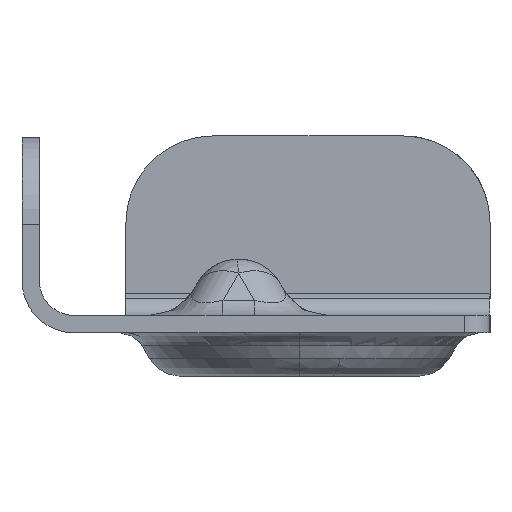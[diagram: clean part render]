
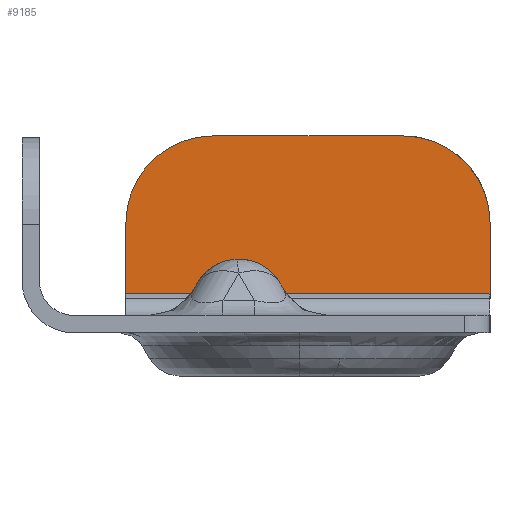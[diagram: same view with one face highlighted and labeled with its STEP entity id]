
A CAD part, left-side view. The second image highlights one B-rep face of the part: STEP entity #9185.
In plain terms, the highlighted planar face has unit normal (-1, 0, 0).
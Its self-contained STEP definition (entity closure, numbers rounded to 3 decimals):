
#9055=AXIS2_PLACEMENT_3D('Circle Axis2P3D',#9053,#9054,$) ;
#9167=AXIS2_PLACEMENT_3D('Plane Axis2P3D',#9164,#9165,#9166) ;
#3737=CARTESIAN_POINT('Vertex',(1555.499,428.001,29.501)) ;
#3740=CARTESIAN_POINT('Line Origine',(1555.499,449.033,29.501)) ;
#3744=CARTESIAN_POINT('Vertex',(1555.499,470.001,29.501)) ;
#9027=CARTESIAN_POINT('Line Origine',(1555.499,470.001,33.601)) ;
#9031=CARTESIAN_POINT('Vertex',(1555.499,470.001,37.701)) ;
#9053=CARTESIAN_POINT('Axis2P3D Location',(1555.499,460.001,37.701)) ;
#9057=CARTESIAN_POINT('Vertex',(1555.499,460.001,47.701)) ;
#9088=CARTESIAN_POINT('Vertex',(1555.499,428.001,37.701)) ;
#9093=CARTESIAN_POINT('Line Origine',(1555.499,428.001,33.601)) ;
#9149=CARTESIAN_POINT('Vertex',(1555.499,438.001,47.701)) ;
#9152=CARTESIAN_POINT('Line Origine',(1555.499,449.001,47.701)) ;
#9164=CARTESIAN_POINT('Axis2P3D Location',(1555.499,470.001,25.001)) ;
#9170=CARTESIAN_POINT('Control Point',(1555.499,428.001,37.701)) ;
#9171=CARTESIAN_POINT('Control Point',(1555.499,428.001,40.843)) ;
#9172=CARTESIAN_POINT('Control Point',(1555.499,429.231,43.987)) ;
#9173=CARTESIAN_POINT('Control Point',(1555.499,431.715,46.471)) ;
#9174=CARTESIAN_POINT('Control Point',(1555.499,434.859,47.701)) ;
#9175=CARTESIAN_POINT('Control Point',(1555.499,438.001,47.701)) ;
#3741=DIRECTION('Vector Direction',(0.,-1.,0.)) ;
#9028=DIRECTION('Vector Direction',(0.,0.,1.)) ;
#9054=DIRECTION('Axis2P3D Direction',(-1.,0.,0.)) ;
#9094=DIRECTION('Vector Direction',(0.,0.,-1.)) ;
#9153=DIRECTION('Vector Direction',(0.,-1.,0.)) ;
#9165=DIRECTION('Axis2P3D Direction',(-1.,0.,0.)) ;
#9166=DIRECTION('Axis2P3D XDirection',(0.,-1.,0.)) ;
#3742=VECTOR('Line Direction',#3741,1.) ;
#9029=VECTOR('Line Direction',#9028,1.) ;
#9095=VECTOR('Line Direction',#9094,1.) ;
#9154=VECTOR('Line Direction',#9153,1.) ;
#9178=ORIENTED_EDGE('',*,*,#9156,.F.) ;
#9179=ORIENTED_EDGE('',*,*,#9059,.T.) ;
#9180=ORIENTED_EDGE('',*,*,#9033,.F.) ;
#9181=ORIENTED_EDGE('',*,*,#3746,.F.) ;
#9182=ORIENTED_EDGE('',*,*,#9097,.F.) ;
#9183=ORIENTED_EDGE('',*,*,#9176,.T.) ;
#9185=ADVANCED_FACE('interfacebia.1\\20mm--\X2\526F9A7E624B52A86807914D\X0\.1',(#9184),#9168,.T.) ;
#9169=B_SPLINE_CURVE_WITH_KNOTS('',5,(#9170,#9171,#9172,#9173,#9174,#9175),.UNSPECIFIED.,.F.,.U.,(6,6),(62.832,78.54),.UNSPECIFIED.) ;
#9056=CIRCLE('generated circle',#9055,10.) ;
#3746=EDGE_CURVE('',#3738,#3745,#3743,.F.) ;
#9033=EDGE_CURVE('',#3745,#9032,#9030,.T.) ;
#9059=EDGE_CURVE('',#9058,#9032,#9056,.T.) ;
#9097=EDGE_CURVE('',#9089,#3738,#9096,.T.) ;
#9156=EDGE_CURVE('',#9058,#9150,#9155,.T.) ;
#9176=EDGE_CURVE('',#9089,#9150,#9169,.T.) ;
#9177=EDGE_LOOP('',(#9178,#9179,#9180,#9181,#9182,#9183)) ;
#9184=FACE_OUTER_BOUND('',#9177,.T.) ;
#3743=LINE('Line',#3740,#3742) ;
#9030=LINE('Line',#9027,#9029) ;
#9096=LINE('Line',#9093,#9095) ;
#9155=LINE('Line',#9152,#9154) ;
#9168=PLANE('Plane',#9167) ;
#3738=VERTEX_POINT('',#3737) ;
#3745=VERTEX_POINT('',#3744) ;
#9032=VERTEX_POINT('',#9031) ;
#9058=VERTEX_POINT('',#9057) ;
#9089=VERTEX_POINT('',#9088) ;
#9150=VERTEX_POINT('',#9149) ;
